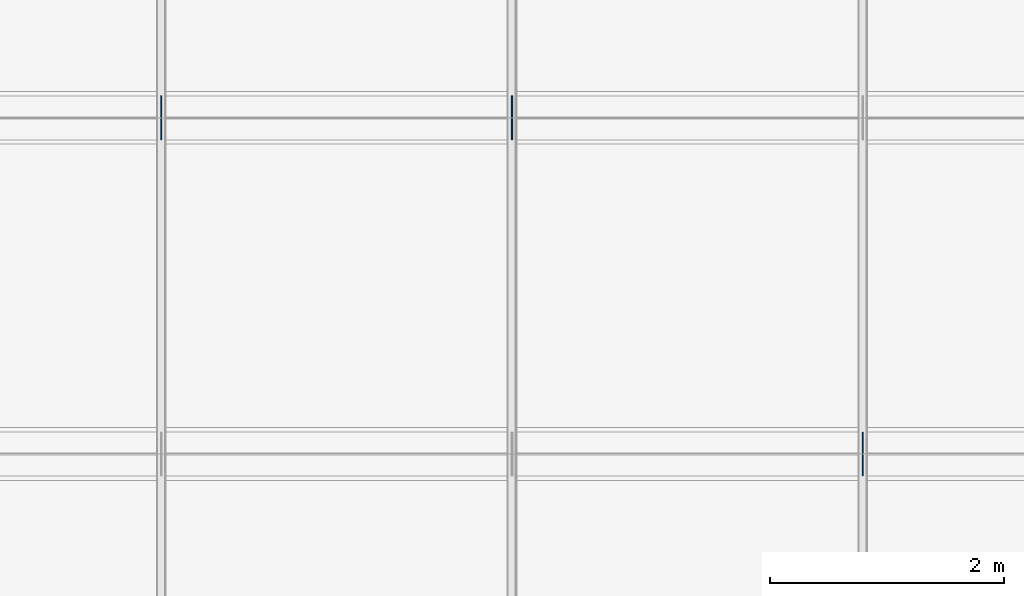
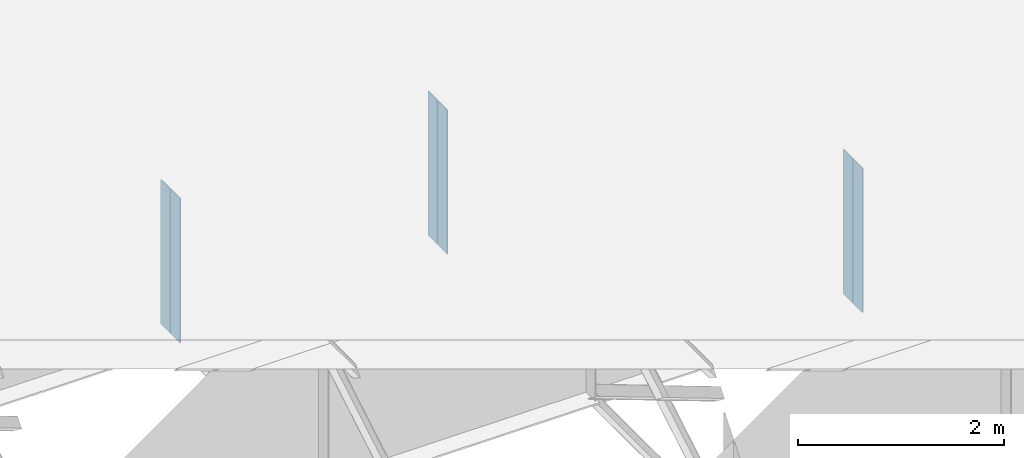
# One storey, part 6 of 11: 6 plates.
"""IFC4 building model written with IfcOpenShell, lengths in metres."""

from ifc_helpers import new_model, si_unit, frame, origin, origin_with_axes, origin_2d_with_axis, place, context, subcontext, project, spatial, rectangle, extrude, element, save


model = new_model("IFC4")

# Units and contexts
model_context = context("Model", 3, precision=1e-05, world=origin())
body_context = subcontext(model_context, "Body", "Model", "MODEL_VIEW")
ifc_project = project(units=[si_unit("LENGTHUNIT", "METRE"), si_unit("AREAUNIT", "SQUARE_METRE"), si_unit("VOLUMEUNIT", "CUBIC_METRE"), si_unit("PLANEANGLEUNIT", "RADIAN")], contexts=[model_context])

# Site, building, storey
site_placement = place(None, origin_with_axes())
site = spatial("IfcSite", under=ifc_project, at=site_placement, Name="Default Site")
building_placement = place(site_placement, origin_with_axes())
building = spatial("IfcBuilding", under=site, at=building_placement, Name="Bridge Structure")
storey_placement = place(building_placement, origin_with_axes())
storey = spatial("IfcBuildingStorey", under=building, at=storey_placement, Name="Superstructure")

# Plates
for number, where, z_axis, x_axis, name in (
    (1, (15.0, -1.34025, -0.856), (0.0, 0.0, 1.0), (1.0, 0.0, 0.0), "Intermediate Stiffener 2"),
    (2, (15.0, -1.53475, -0.856), (0.0, 0.0, 1.0), (1.0, 0.0, 0.0), "Intermediate Stiffener 2"),
    (3, (9.0, 1.53475, -0.856), (0.0, 0.0, 1.0), (1.0, 0.0, 0.0), "Intermediate Stiffener 3"),
    (4, (9.0, 1.34025, -0.856), (0.0, 0.0, 1.0), (1.0, 0.0, 0.0), "Intermediate Stiffener 3"),
    (5, (12.0, 1.53475, -0.856), (0.0, 0.0, 1.0), (1.0, 0.0, 0.0), "Intermediate Stiffener 3"),
    (6, (12.0, 1.34025, -0.856), (0.0, 0.0, 1.0), (1.0, 0.0, 0.0), "Intermediate Stiffener 3"),
):
    element("IfcPlate", number, at=place(storey_placement, frame(where, z_axis=z_axis, x_axis=x_axis)), inside=storey, Name=name, context=body_context, shape_type="SweptSolid", body=[
        extrude(rectangle(XDim=0.012, YDim=0.1805, at=origin_2d_with_axis()), origin_with_axes(), (0.0, 0.0, 1.0), 1.712),
    ])

save(model, "model.ifc")
